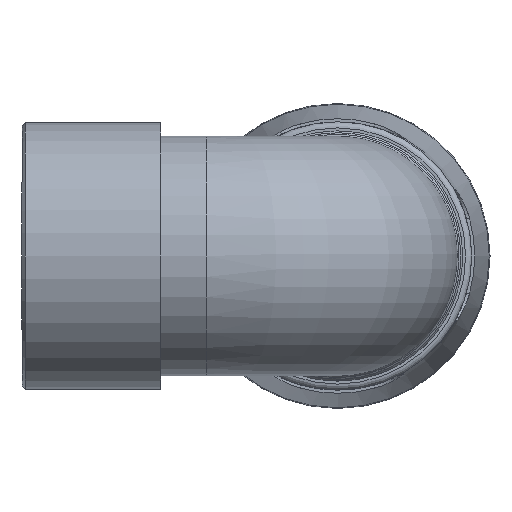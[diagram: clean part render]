
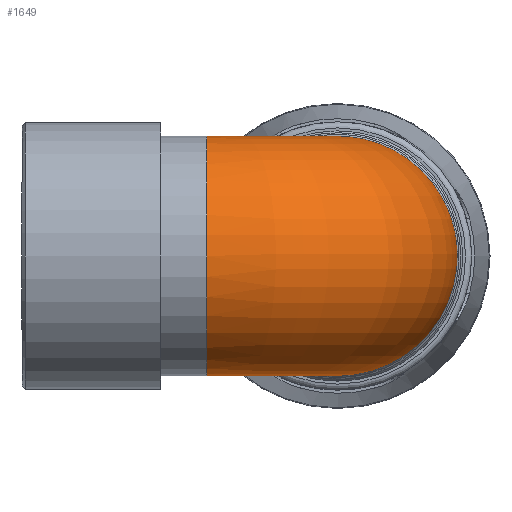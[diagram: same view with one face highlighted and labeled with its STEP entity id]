
A CAD part, left-side view. The second image highlights one B-rep face of the part: STEP entity #1649.
In plain terms, the highlighted toroidal (fillet/blend) face has major radius 24.832 mm and minor radius 22.787 mm.
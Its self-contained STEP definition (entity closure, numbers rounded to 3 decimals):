
#177=TOROIDAL_SURFACE('',#1800,24.832,22.787);
#187=B_SPLINE_CURVE_WITH_KNOTS('',3,(#2867,#2868,#2869,#2870,#2871,#2872,
#2873,#2874,#2875,#2876,#2877,#2878,#2879,#2880,#2881,#2882,#2883,#2884,
#2885,#2886,#2887),.UNSPECIFIED.,.T.,.F.,(4,1,1,1,1,1,1,1,1,1,1,1,1,1,1,
1,1,1,4),(-3.142,-3.029,-2.917,-2.693,
-2.244,-1.795,-1.346,-0.748,
-0.449,-0.15,0.449,0.898,
1.346,1.795,2.244,2.693,2.917,
3.029,3.142),.UNSPECIFIED.);
#367=FACE_BOUND('',#522,.T.);
#398=FACE_OUTER_BOUND('',#521,.T.);
#521=EDGE_LOOP('',(#1202));
#522=EDGE_LOOP('',(#1203));
#669=CIRCLE('',#1795,22.787);
#763=VERTEX_POINT('',#2865);
#768=VERTEX_POINT('',#2969);
#930=EDGE_CURVE('',#763,#763,#187,.T.);
#935=EDGE_CURVE('',#768,#768,#669,.T.);
#1202=ORIENTED_EDGE('',*,*,#930,.F.);
#1203=ORIENTED_EDGE('',*,*,#935,.T.);
#1649=ADVANCED_FACE('',(#398,#367),#177,.T.);
#1795=AXIS2_PLACEMENT_3D('',#2970,#2049,#2050);
#1800=AXIS2_PLACEMENT_3D('',#2978,#2059,#2060);
#2049=DIRECTION('center_axis',(0.,-1.,0.));
#2050=DIRECTION('ref_axis',(-1.,0.,0.));
#2059=DIRECTION('center_axis',(0.,0.,1.));
#2060=DIRECTION('ref_axis',(1.,0.,0.));
#2865=CARTESIAN_POINT('',(22.866,24.267,0.));
#2867=CARTESIAN_POINT('Ctrl Pts',(22.867,24.269,0.));
#2868=CARTESIAN_POINT('Ctrl Pts',(22.867,24.269,0.855));
#2869=CARTESIAN_POINT('Ctrl Pts',(22.846,23.928,2.564));
#2870=CARTESIAN_POINT('Ctrl Pts',(22.968,22.75,5.903));
#2871=CARTESIAN_POINT('Ctrl Pts',(23.225,20.374,11.513));
#2872=CARTESIAN_POINT('Ctrl Pts',(23.308,14.895,18.345));
#2873=CARTESIAN_POINT('Ctrl Pts',(23.353,5.419,22.943));
#2874=CARTESIAN_POINT('Ctrl Pts',(23.367,-6.28,23.02));
#2875=CARTESIAN_POINT('Ctrl Pts',(23.375,-15.599,17.696));
#2876=CARTESIAN_POINT('Ctrl Pts',(23.377,-20.793,10.066));
#2877=CARTESIAN_POINT('Ctrl Pts',(23.379,-23.552,1.258));
#2878=CARTESIAN_POINT('Ctrl Pts',(23.377,-21.942,-9.352));
#2879=CARTESIAN_POINT('Ctrl Pts',(23.375,-14.607,-18.474));
#2880=CARTESIAN_POINT('Ctrl Pts',(23.366,-5.108,-23.003));
#2881=CARTESIAN_POINT('Ctrl Pts',(23.353,5.417,-22.948));
#2882=CARTESIAN_POINT('Ctrl Pts',(23.309,14.895,-18.343));
#2883=CARTESIAN_POINT('Ctrl Pts',(23.225,20.373,-11.514));
#2884=CARTESIAN_POINT('Ctrl Pts',(22.968,22.75,-5.903));
#2885=CARTESIAN_POINT('Ctrl Pts',(22.846,23.928,-2.564));
#2886=CARTESIAN_POINT('Ctrl Pts',(22.867,24.269,-0.855));
#2887=CARTESIAN_POINT('Ctrl Pts',(22.867,24.269,0.));
#2969=CARTESIAN_POINT('',(22.787,24.832,0.));
#2970=CARTESIAN_POINT('Origin',(0.,24.832,0.));
#2978=CARTESIAN_POINT('Origin',(24.832,24.832,0.));
